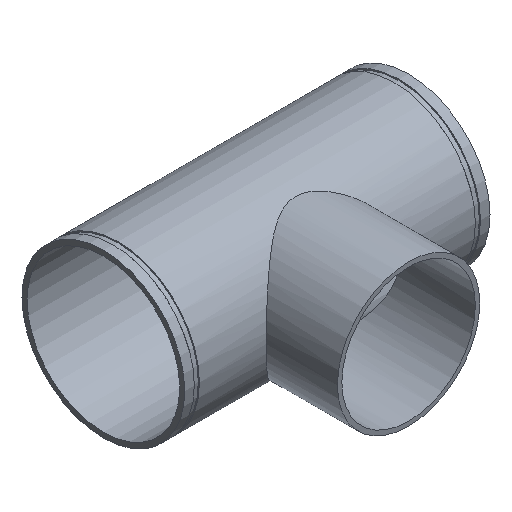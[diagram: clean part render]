
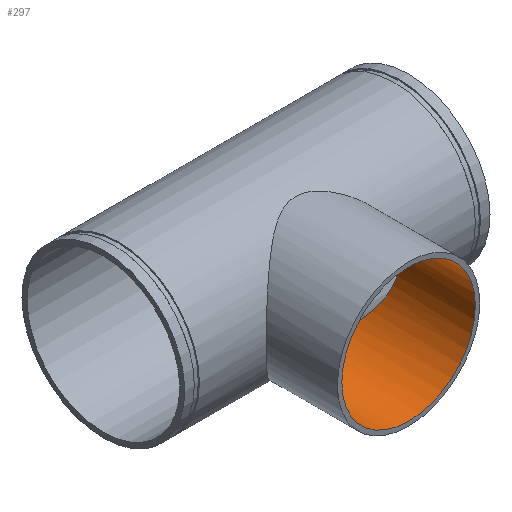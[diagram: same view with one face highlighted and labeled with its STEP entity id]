
A CAD part, isometric view. The second image highlights one B-rep face of the part: STEP entity #297.
In plain terms, the highlighted cylindrical face has radius 166.7 mm (diameter 333.4 mm), a full revolution.
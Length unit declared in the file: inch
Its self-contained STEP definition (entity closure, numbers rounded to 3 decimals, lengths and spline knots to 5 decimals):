
#47=B_SPLINE_CURVE_WITH_KNOTS('',3,(#633,#634,#635,#636,#637,#638,#639,
#640,#641,#642,#643,#644,#645,#646,#647,#648,#649,#650,#651,#652,#653,#654,
#655,#656,#657,#658),.UNSPECIFIED.,.F.,.F.,(4,2,2,2,2,2,2,2,2,2,2,2,4),
(0.,1.78047,3.56094,5.3414,7.12187,
10.68281,14.24374,17.59934,20.95493,22.63273,
24.31052,25.98832,27.66612),.UNSPECIFIED.);
#48=B_SPLINE_CURVE_WITH_KNOTS('',3,(#659,#660,#661,#662,#663,#664,#665,
#666,#667,#668,#669,#670,#671,#672,#673,#674,#675,#676,#677,#678,#679,#680,
#681,#682,#683,#684,#685,#686,#687,#688,#689,#690,#691,#692,#693,#694,#695,
#696,#697,#698,#699,#700,#701,#702,#703,#704,#705,#706,#707,#708,#709,#710,
#711,#712,#713,#714,#715,#716,#717,#718,#719,#720,#721,#722,#723,#724,#725,
#726,#727,#728,#729,#730,#731,#732),.UNSPECIFIED.,.F.,.F.,(4,2,2,2,2,2,
2,2,2,2,2,2,2,2,2,2,2,2,2,2,2,2,2,2,2,2,2,2,2,2,2,2,2,2,2,2,4),(27.66612,
29.34392,31.02171,32.69951,34.37731,37.7329,
41.0885,44.64943,48.21037,49.99083,51.7713,
53.55177,55.33224,57.11271,58.89317,60.67364,
62.45411,66.01505,69.57598,72.93157,76.28717,
77.96497,79.64276,81.32056,82.99836,84.67615,
86.35395,88.03175,89.70955,93.06514,96.42073,
99.98167,103.54261,105.32307,107.10354,108.88401,
110.66448),.UNSPECIFIED.);
#55=LINE('',#744,#63);
#63=VECTOR('',#440,6.563);
#71=CYLINDRICAL_SURFACE('',#349,6.563);
#94=FACE_OUTER_BOUND('',#117,.T.);
#117=EDGE_LOOP('',(#247,#248,#249,#250,#251,#252));
#138=CIRCLE('',#350,6.563);
#139=CIRCLE('',#351,6.563);
#159=VERTEX_POINT('',#631);
#160=VERTEX_POINT('',#632);
#162=VERTEX_POINT('',#740);
#163=VERTEX_POINT('',#741);
#188=EDGE_CURVE('',#159,#160,#47,.T.);
#189=EDGE_CURVE('',#160,#159,#48,.T.);
#192=EDGE_CURVE('',#162,#163,#138,.T.);
#193=EDGE_CURVE('',#163,#162,#139,.T.);
#194=EDGE_CURVE('',#163,#160,#55,.T.);
#247=ORIENTED_EDGE('',*,*,#192,.F.);
#248=ORIENTED_EDGE('',*,*,#193,.F.);
#249=ORIENTED_EDGE('',*,*,#194,.T.);
#250=ORIENTED_EDGE('',*,*,#188,.F.);
#251=ORIENTED_EDGE('',*,*,#189,.F.);
#252=ORIENTED_EDGE('',*,*,#194,.F.);
#297=ADVANCED_FACE('',(#94),#71,.F.);
#349=AXIS2_PLACEMENT_3D('',#739,#434,#435);
#350=AXIS2_PLACEMENT_3D('',#742,#436,#437);
#351=AXIS2_PLACEMENT_3D('',#743,#438,#439);
#434=DIRECTION('center_axis',(0.,1.,0.));
#435=DIRECTION('ref_axis',(1.,0.,0.));
#436=DIRECTION('center_axis',(0.,1.,0.));
#437=DIRECTION('ref_axis',(1.,0.,0.));
#438=DIRECTION('center_axis',(0.,1.,0.));
#439=DIRECTION('ref_axis',(1.,0.,0.));
#440=DIRECTION('',(0.,1.,0.));
#631=CARTESIAN_POINT('',(0.,-3.63002,6.563));
#632=CARTESIAN_POINT('',(-6.563,-7.5,0.));
#633=CARTESIAN_POINT('Ctrl Pts',(0.,-3.63002,
6.563));
#634=CARTESIAN_POINT('Ctrl Pts',(-0.23366,-3.63002,6.563));
#635=CARTESIAN_POINT('Ctrl Pts',(-0.46228,-3.65273,6.55056));
#636=CARTESIAN_POINT('Ctrl Pts',(-0.90971,-3.73581,6.50354));
#637=CARTESIAN_POINT('Ctrl Pts',(-1.12852,-3.79608,6.46895));
#638=CARTESIAN_POINT('Ctrl Pts',(-1.55683,-3.94467,6.37943));
#639=CARTESIAN_POINT('Ctrl Pts',(-1.76633,-4.03293,6.32449));
#640=CARTESIAN_POINT('Ctrl Pts',(-2.17628,-4.22857,6.1954));
#641=CARTESIAN_POINT('Ctrl Pts',(-2.37673,-4.33594,6.12122));
#642=CARTESIAN_POINT('Ctrl Pts',(-2.96386,-4.67541,5.87108));
#643=CARTESIAN_POINT('Ctrl Pts',(-3.33615,-4.92418,5.66736));
#644=CARTESIAN_POINT('Ctrl Pts',(-4.03036,-5.41862,5.19664));
#645=CARTESIAN_POINT('Ctrl Pts',(-4.35206,-5.66443,4.92943));
#646=CARTESIAN_POINT('Ctrl Pts',(-4.91278,-6.10609,4.3687));
#647=CARTESIAN_POINT('Ctrl Pts',(-5.17496,-6.31981,4.05797));
#648=CARTESIAN_POINT('Ctrl Pts',(-5.64758,-6.71229,3.3693));
#649=CARTESIAN_POINT('Ctrl Pts',(-5.85801,-6.89096,2.9913));
#650=CARTESIAN_POINT('Ctrl Pts',(-6.11678,-7.11267,2.38867));
#651=CARTESIAN_POINT('Ctrl Pts',(-6.19374,-7.17902,2.18166));
#652=CARTESIAN_POINT('Ctrl Pts',(-6.32684,-7.29416,1.75876));
#653=CARTESIAN_POINT('Ctrl Pts',(-6.38297,-7.34294,1.54287));
#654=CARTESIAN_POINT('Ctrl Pts',(-6.47298,-7.42132,1.10602));
#655=CARTESIAN_POINT('Ctrl Pts',(-6.50686,-7.45092,0.88503));
#656=CARTESIAN_POINT('Ctrl Pts',(-6.55187,-7.49026,0.44211));
#657=CARTESIAN_POINT('Ctrl Pts',(-6.563,-7.5,0.22018));
#658=CARTESIAN_POINT('Ctrl Pts',(-6.563,-7.5,0.));
#659=CARTESIAN_POINT('Ctrl Pts',(-6.563,-7.5,0.));
#660=CARTESIAN_POINT('Ctrl Pts',(-6.563,-7.5,-0.22018));
#661=CARTESIAN_POINT('Ctrl Pts',(-6.55187,-7.49026,-0.44211));
#662=CARTESIAN_POINT('Ctrl Pts',(-6.50686,-7.45092,-0.88503));
#663=CARTESIAN_POINT('Ctrl Pts',(-6.47298,-7.42132,-1.10602));
#664=CARTESIAN_POINT('Ctrl Pts',(-6.38297,-7.34294,-1.54287));
#665=CARTESIAN_POINT('Ctrl Pts',(-6.32684,-7.29416,-1.75876));
#666=CARTESIAN_POINT('Ctrl Pts',(-6.19374,-7.17902,-2.18166));
#667=CARTESIAN_POINT('Ctrl Pts',(-6.11678,-7.11267,-2.38867));
#668=CARTESIAN_POINT('Ctrl Pts',(-5.85801,-6.89096,-2.9913));
#669=CARTESIAN_POINT('Ctrl Pts',(-5.64758,-6.71229,-3.3693));
#670=CARTESIAN_POINT('Ctrl Pts',(-5.17496,-6.31981,-4.05797));
#671=CARTESIAN_POINT('Ctrl Pts',(-4.91278,-6.10609,-4.3687));
#672=CARTESIAN_POINT('Ctrl Pts',(-4.35206,-5.66443,-4.92943));
#673=CARTESIAN_POINT('Ctrl Pts',(-4.03036,-5.41862,-5.19664));
#674=CARTESIAN_POINT('Ctrl Pts',(-3.33615,-4.92418,-5.66736));
#675=CARTESIAN_POINT('Ctrl Pts',(-2.96386,-4.67541,-5.87108));
#676=CARTESIAN_POINT('Ctrl Pts',(-2.37673,-4.33594,-6.12122));
#677=CARTESIAN_POINT('Ctrl Pts',(-2.17628,-4.22857,-6.1954));
#678=CARTESIAN_POINT('Ctrl Pts',(-1.76633,-4.03293,-6.32449));
#679=CARTESIAN_POINT('Ctrl Pts',(-1.55683,-3.94467,-6.37943));
#680=CARTESIAN_POINT('Ctrl Pts',(-1.12852,-3.79608,-6.46895));
#681=CARTESIAN_POINT('Ctrl Pts',(-0.90971,-3.73581,-6.50354));
#682=CARTESIAN_POINT('Ctrl Pts',(-0.46228,-3.65273,-6.55056));
#683=CARTESIAN_POINT('Ctrl Pts',(-0.23366,-3.63002,-6.563));
#684=CARTESIAN_POINT('Ctrl Pts',(0.23366,-3.63002,-6.563));
#685=CARTESIAN_POINT('Ctrl Pts',(0.46228,-3.65273,-6.55056));
#686=CARTESIAN_POINT('Ctrl Pts',(0.90971,-3.73581,-6.50354));
#687=CARTESIAN_POINT('Ctrl Pts',(1.12852,-3.79608,-6.46895));
#688=CARTESIAN_POINT('Ctrl Pts',(1.55683,-3.94467,-6.37943));
#689=CARTESIAN_POINT('Ctrl Pts',(1.76633,-4.03293,-6.32449));
#690=CARTESIAN_POINT('Ctrl Pts',(2.17628,-4.22857,-6.1954));
#691=CARTESIAN_POINT('Ctrl Pts',(2.37673,-4.33594,-6.12122));
#692=CARTESIAN_POINT('Ctrl Pts',(2.96386,-4.67541,-5.87108));
#693=CARTESIAN_POINT('Ctrl Pts',(3.33615,-4.92418,-5.66736));
#694=CARTESIAN_POINT('Ctrl Pts',(4.03036,-5.41862,-5.19664));
#695=CARTESIAN_POINT('Ctrl Pts',(4.35206,-5.66443,-4.92943));
#696=CARTESIAN_POINT('Ctrl Pts',(4.91278,-6.10609,-4.3687));
#697=CARTESIAN_POINT('Ctrl Pts',(5.17496,-6.31981,-4.05797));
#698=CARTESIAN_POINT('Ctrl Pts',(5.64758,-6.71229,-3.3693));
#699=CARTESIAN_POINT('Ctrl Pts',(5.85801,-6.89096,-2.9913));
#700=CARTESIAN_POINT('Ctrl Pts',(6.11678,-7.11267,-2.38867));
#701=CARTESIAN_POINT('Ctrl Pts',(6.19374,-7.17902,-2.18166));
#702=CARTESIAN_POINT('Ctrl Pts',(6.32684,-7.29416,-1.75876));
#703=CARTESIAN_POINT('Ctrl Pts',(6.38297,-7.34294,-1.54287));
#704=CARTESIAN_POINT('Ctrl Pts',(6.47298,-7.42132,-1.10602));
#705=CARTESIAN_POINT('Ctrl Pts',(6.50686,-7.45092,-0.88503));
#706=CARTESIAN_POINT('Ctrl Pts',(6.55187,-7.49026,-0.44211));
#707=CARTESIAN_POINT('Ctrl Pts',(6.563,-7.5,-0.22018));
#708=CARTESIAN_POINT('Ctrl Pts',(6.563,-7.5,0.22018));
#709=CARTESIAN_POINT('Ctrl Pts',(6.55187,-7.49026,0.44211));
#710=CARTESIAN_POINT('Ctrl Pts',(6.50686,-7.45092,0.88503));
#711=CARTESIAN_POINT('Ctrl Pts',(6.47298,-7.42132,1.10602));
#712=CARTESIAN_POINT('Ctrl Pts',(6.38297,-7.34294,1.54287));
#713=CARTESIAN_POINT('Ctrl Pts',(6.32684,-7.29416,1.75876));
#714=CARTESIAN_POINT('Ctrl Pts',(6.19374,-7.17902,2.18166));
#715=CARTESIAN_POINT('Ctrl Pts',(6.11678,-7.11267,2.38867));
#716=CARTESIAN_POINT('Ctrl Pts',(5.85801,-6.89096,2.9913));
#717=CARTESIAN_POINT('Ctrl Pts',(5.64758,-6.71229,3.3693));
#718=CARTESIAN_POINT('Ctrl Pts',(5.17496,-6.31981,4.05797));
#719=CARTESIAN_POINT('Ctrl Pts',(4.91278,-6.10609,4.3687));
#720=CARTESIAN_POINT('Ctrl Pts',(4.35206,-5.66443,4.92943));
#721=CARTESIAN_POINT('Ctrl Pts',(4.03036,-5.41862,5.19664));
#722=CARTESIAN_POINT('Ctrl Pts',(3.33615,-4.92418,5.66736));
#723=CARTESIAN_POINT('Ctrl Pts',(2.96386,-4.67541,5.87108));
#724=CARTESIAN_POINT('Ctrl Pts',(2.37673,-4.33594,6.12122));
#725=CARTESIAN_POINT('Ctrl Pts',(2.17628,-4.22857,6.1954));
#726=CARTESIAN_POINT('Ctrl Pts',(1.76633,-4.03293,6.32449));
#727=CARTESIAN_POINT('Ctrl Pts',(1.55683,-3.94467,6.37943));
#728=CARTESIAN_POINT('Ctrl Pts',(1.12852,-3.79608,6.46895));
#729=CARTESIAN_POINT('Ctrl Pts',(0.90971,-3.73581,6.50354));
#730=CARTESIAN_POINT('Ctrl Pts',(0.46228,-3.65273,6.55056));
#731=CARTESIAN_POINT('Ctrl Pts',(0.23366,-3.63002,6.563));
#732=CARTESIAN_POINT('Ctrl Pts',(0.,-3.63002,
6.563));
#739=CARTESIAN_POINT('Origin',(0.,-15.,0.));
#740=CARTESIAN_POINT('',(6.563,-15.,0.));
#741=CARTESIAN_POINT('',(-6.563,-15.,0.));
#742=CARTESIAN_POINT('Origin',(0.,-15.,0.));
#743=CARTESIAN_POINT('Origin',(0.,-15.,0.));
#744=CARTESIAN_POINT('',(-6.563,-15.,0.));
